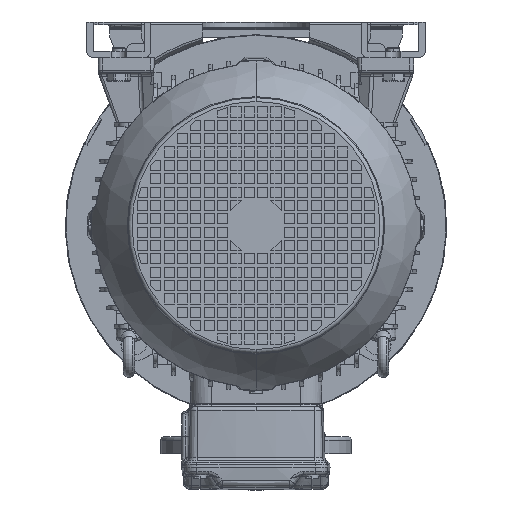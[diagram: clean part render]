
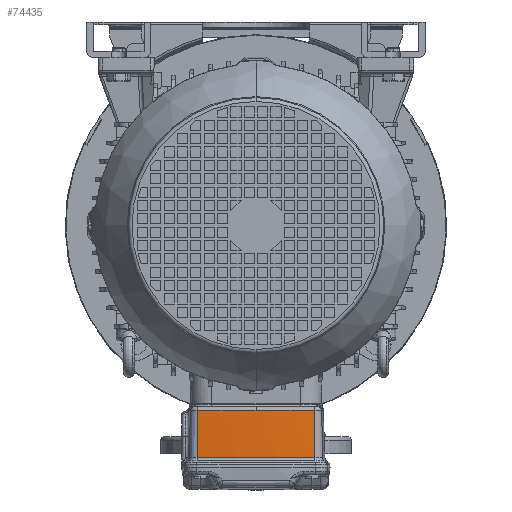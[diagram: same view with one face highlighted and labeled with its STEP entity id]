
A CAD part, front view. The second image highlights one B-rep face of the part: STEP entity #74435.
In plain terms, the highlighted conical face has half-angle 1 degrees and reference radius 447 mm.
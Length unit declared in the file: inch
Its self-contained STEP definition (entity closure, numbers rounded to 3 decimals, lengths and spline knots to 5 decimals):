
#1550 = VERTEX_POINT ( 'NONE', #28983 ) ;
#3728 = DIRECTION ( 'NONE',  ( 0., 0., 1. ) ) ;
#4476 = CARTESIAN_POINT ( 'NONE',  ( 0., 7.48031, 17.48031 ) ) ;
#5306 = DIRECTION ( 'NONE',  ( 0., 1., 0. ) ) ;
#7895 = CARTESIAN_POINT ( 'NONE',  ( 1.81591, 5.72629, 0.00661 ) ) ;
#8201 = LINE ( 'NONE', #67607, #65552 ) ;
#13045 = CONICAL_SURFACE ( 'NONE', #22603, 17.59843, 0.017 ) ;
#13284 = EDGE_CURVE ( 'NONE', #81978, #1550, #127574, .T. ) ;
#16416 = DIRECTION ( 'NONE',  ( 0., 0., -1. ) ) ;
#19546 = CARTESIAN_POINT ( 'NONE',  ( 0., 5.72629, 17.48031 ) ) ;
#21893 = CIRCLE ( 'NONE', #139705, 17.59329 ) ;
#22463 = DIRECTION ( 'NONE',  ( 0.002, 1., -0.017 ) ) ;
#22603 = AXIS2_PLACEMENT_3D ( 'NONE', #4476, #26336, #3728 ) ;
#26336 = DIRECTION ( 'NONE',  ( 0., 1., 0. ) ) ;
#26718 = CARTESIAN_POINT ( 'NONE',  ( -1.81907, 7.48031, -0.02384 ) ) ;
#28983 = CARTESIAN_POINT ( 'NONE',  ( -1.81854, 7.18629, -0.01874 ) ) ;
#30865 = DIRECTION ( 'NONE',  ( 0., 0., -1. ) ) ;
#33032 = CARTESIAN_POINT ( 'NONE',  ( -1.81591, 5.72629, 0.00661 ) ) ;
#38836 = EDGE_CURVE ( 'NONE', #83570, #137306, #8201, .T. ) ;
#55471 = ORIENTED_EDGE ( 'NONE', *, *, #136905, .T. ) ;
#56596 = EDGE_CURVE ( 'NONE', #1550, #137306, #21893, .T. ) ;
#64705 = AXIS2_PLACEMENT_3D ( 'NONE', #96933, #73604, #16416 ) ;
#65552 = VECTOR ( 'NONE', #22463, 39.37008 ) ;
#67607 = CARTESIAN_POINT ( 'NONE',  ( 1.81907, 7.48031, -0.02384 ) ) ;
#71639 = VERTEX_POINT ( 'NONE', #136576 ) ;
#73604 = DIRECTION ( 'NONE',  ( 0., 1., 0. ) ) ;
#74435 = ADVANCED_FACE ( 'NONE', ( #106116 ), #13045, .T. ) ;
#76347 = CARTESIAN_POINT ( 'NONE',  ( 0., 7.18629, 17.48031 ) ) ;
#81978 = VERTEX_POINT ( 'NONE', #33032 ) ;
#82142 = EDGE_CURVE ( 'NONE', #83570, #71639, #141687, .T. ) ;
#83570 = VERTEX_POINT ( 'NONE', #7895 ) ;
#85579 = ORIENTED_EDGE ( 'NONE', *, *, #82142, .T. ) ;
#85647 = VECTOR ( 'NONE', #128336, 39.37008 ) ;
#89040 = ORIENTED_EDGE ( 'NONE', *, *, #56596, .T. ) ;
#95217 = ORIENTED_EDGE ( 'NONE', *, *, #13284, .T. ) ;
#96933 = CARTESIAN_POINT ( 'NONE',  ( 0., 5.72629, 17.48031 ) ) ;
#106116 = FACE_OUTER_BOUND ( 'NONE', #114342, .T. ) ;
#110588 = CIRCLE ( 'NONE', #129822, 17.56781 ) ;
#114342 = EDGE_LOOP ( 'NONE', ( #95217, #89040, #123253, #85579, #55471 ) ) ;
#122256 = DIRECTION ( 'NONE',  ( 0., -1., 0. ) ) ;
#123253 = ORIENTED_EDGE ( 'NONE', *, *, #38836, .F. ) ;
#126630 = CARTESIAN_POINT ( 'NONE',  ( 1.81854, 7.18629, -0.01874 ) ) ;
#127574 = LINE ( 'NONE', #26718, #85647 ) ;
#128336 = DIRECTION ( 'NONE',  ( -0.002, 1., -0.017 ) ) ;
#129822 = AXIS2_PLACEMENT_3D ( 'NONE', #19546, #5306, #30865 ) ;
#131369 = DIRECTION ( 'NONE',  ( 0., 0., 1. ) ) ;
#136576 = CARTESIAN_POINT ( 'NONE',  ( 0., 5.72629, -0.08749 ) ) ;
#136905 = EDGE_CURVE ( 'NONE', #71639, #81978, #110588, .T. ) ;
#137306 = VERTEX_POINT ( 'NONE', #126630 ) ;
#139705 = AXIS2_PLACEMENT_3D ( 'NONE', #76347, #122256, #131369 ) ;
#141687 = CIRCLE ( 'NONE', #64705, 17.56781 ) ;
